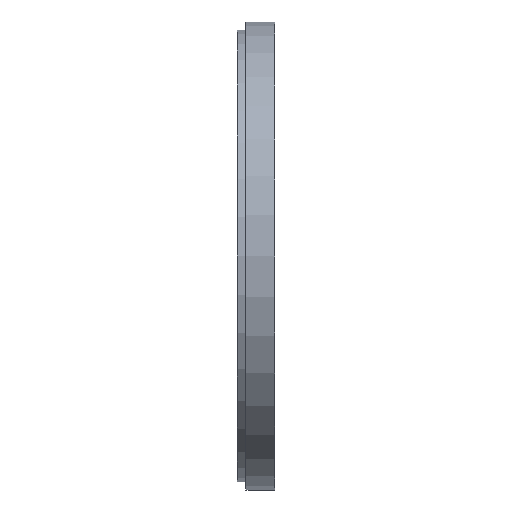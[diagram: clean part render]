
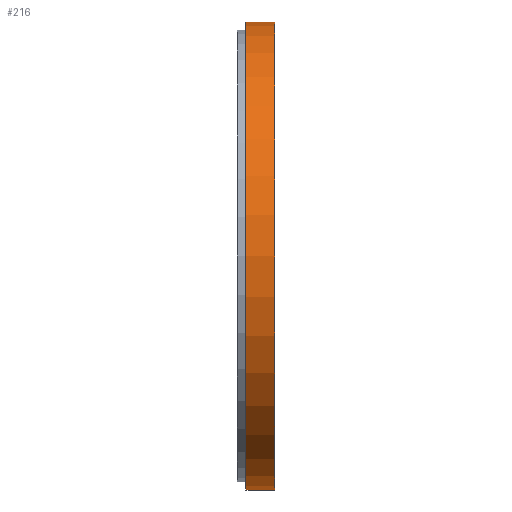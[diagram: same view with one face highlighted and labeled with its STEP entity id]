
A CAD part, left-side view. The second image highlights one B-rep face of the part: STEP entity #216.
In plain terms, the highlighted cylindrical face has radius 24.5 mm (diameter 49 mm), a partial arc.
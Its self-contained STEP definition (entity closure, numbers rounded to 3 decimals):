
#25 = AXIS2_PLACEMENT_3D ( 'NONE', #1184, #485, #369 ) ;
#26 = VECTOR ( 'NONE', #1047, 1000. ) ;
#41 = ORIENTED_EDGE ( 'NONE', *, *, #847, .T. ) ;
#45 = CARTESIAN_POINT ( 'NONE',  ( 0., -3.244, 0. ) ) ;
#80 = EDGE_LOOP ( 'NONE', ( #1331, #222, #41, #690 ) ) ;
#154 = DIRECTION ( 'NONE',  ( 0., -1., 0. ) ) ;
#216 = ADVANCED_FACE ( 'NONE', ( #264 ), #1228, .T. ) ;
#222 = ORIENTED_EDGE ( 'NONE', *, *, #540, .T. ) ;
#254 = VERTEX_POINT ( 'NONE', #1445 ) ;
#264 = FACE_OUTER_BOUND ( 'NONE', #80, .T. ) ;
#266 = CARTESIAN_POINT ( 'NONE',  ( 0., 0., -24.5 ) ) ;
#294 = DIRECTION ( 'NONE',  ( 0., 0., -1. ) ) ;
#309 = CARTESIAN_POINT ( 'NONE',  ( 0., 3., 24.5 ) ) ;
#315 = VERTEX_POINT ( 'NONE', #309 ) ;
#354 = CARTESIAN_POINT ( 'NONE',  ( 0., 0., 0. ) ) ;
#369 = DIRECTION ( 'NONE',  ( 0., 0., -1. ) ) ;
#452 = CIRCLE ( 'NONE', #25, 24.5 ) ;
#485 = DIRECTION ( 'NONE',  ( 0., -1., 0. ) ) ;
#492 = EDGE_CURVE ( 'NONE', #1451, #1458, #1009, .T. ) ;
#540 = EDGE_CURVE ( 'NONE', #315, #254, #452, .T. ) ;
#574 = CARTESIAN_POINT ( 'NONE',  ( 0., -3.244, -24.5 ) ) ;
#690 = ORIENTED_EDGE ( 'NONE', *, *, #492, .F. ) ;
#715 = DIRECTION ( 'NONE',  ( 0., 0., -1. ) ) ;
#752 = LINE ( 'NONE', #1210, #1514 ) ;
#766 = EDGE_CURVE ( 'NONE', #315, #1451, #752, .T. ) ;
#847 = EDGE_CURVE ( 'NONE', #254, #1458, #1183, .T. ) ;
#860 = CARTESIAN_POINT ( 'NONE',  ( 0., 0., 24.5 ) ) ;
#1008 = AXIS2_PLACEMENT_3D ( 'NONE', #45, #1326, #294 ) ;
#1009 = CIRCLE ( 'NONE', #1125, 24.5 ) ;
#1047 = DIRECTION ( 'NONE',  ( 0., -1., 0. ) ) ;
#1125 = AXIS2_PLACEMENT_3D ( 'NONE', #354, #1156, #715 ) ;
#1156 = DIRECTION ( 'NONE',  ( 0., -1., 0. ) ) ;
#1183 = LINE ( 'NONE', #574, #26 ) ;
#1184 = CARTESIAN_POINT ( 'NONE',  ( 0., 3., 0. ) ) ;
#1210 = CARTESIAN_POINT ( 'NONE',  ( 0., -3.244, 24.5 ) ) ;
#1228 = CYLINDRICAL_SURFACE ( 'NONE', #1008, 24.5 ) ;
#1326 = DIRECTION ( 'NONE',  ( 0., -1., 0. ) ) ;
#1331 = ORIENTED_EDGE ( 'NONE', *, *, #766, .F. ) ;
#1445 = CARTESIAN_POINT ( 'NONE',  ( 0., 3., -24.5 ) ) ;
#1451 = VERTEX_POINT ( 'NONE', #860 ) ;
#1458 = VERTEX_POINT ( 'NONE', #266 ) ;
#1514 = VECTOR ( 'NONE', #154, 1000. ) ;
